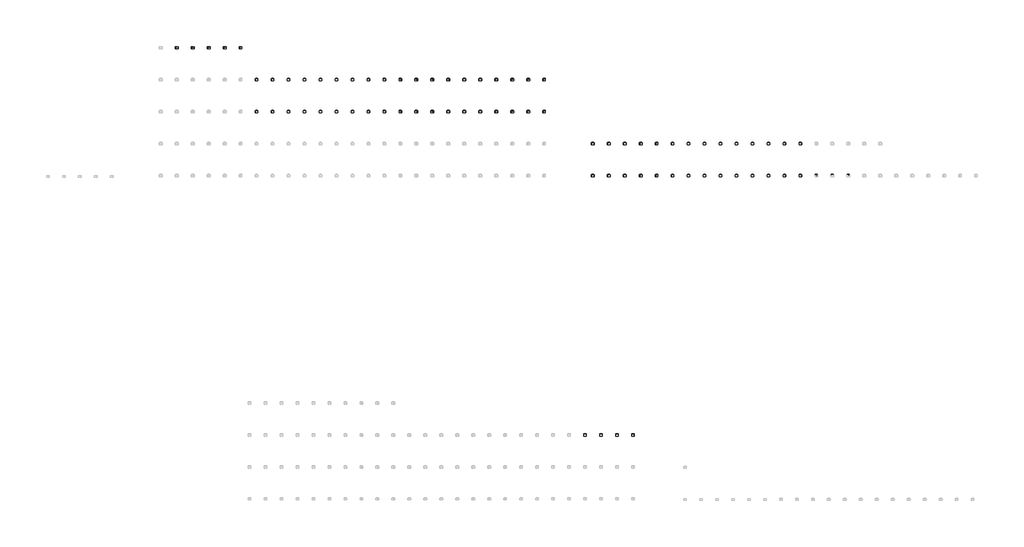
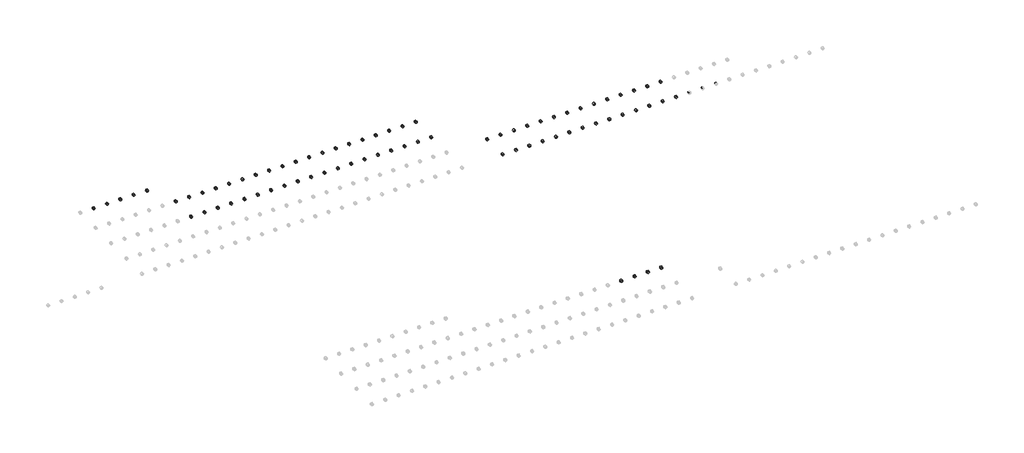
# One storey, part 11 of 18: 76 proxies, 75 cable carrier fittings.
"""IFC4 building model written with IfcOpenShell, lengths in millimetres."""

from ifc_helpers import new_model, si_unit, origin, place, context, project, spatial, transform, mapped, element, save
from components import electrical_fixtures_b7a49094, electrical_fixtures_7aa9f29c, electrical_fixtures_e2d6db54, electrical_fixtures_49105fda, electrical_fixtures_795b5cfc, electrical_fixtures_8f9d2783, cable_carrier_fitting_a64d4eba

model = new_model("IFC4")

# Units and contexts
model_context = context("Model", 3, world=origin())
ifc_project = project(units=[si_unit("LENGTHUNIT", "METRE", prefix="MILLI")], contexts=[model_context])

# Site, building, storey
site = spatial("IfcSite", under=ifc_project)
building = spatial("IfcBuilding", under=site)
storey = spatial("IfcBuildingStorey", under=building, Name="Этаж 01", Elevation=0.0)

# Proxies
placement = place(None, origin())
electrical_fixtures_shape = electrical_fixtures_b7a49094(model_context)
element("IfcBuildingElementProxy", 1, Name="IEK_Brite_Механизм розетки 230В : USB A+A_РЮ10-1-БрС", ObjectType="IEK_Brite_Механизм розетки 230В : USB A+A_РЮ10-1-БрС", at=placement, inside=storey, context=model_context, shape_type="MappedRepresentation", body=[
    mapped(electrical_fixtures_shape, transform((48390.6847594, -15405.0, 0.0), x_axis=(1.0, 0.0, 0.0), y_axis=(0.0, 1.0, 0.0), z_axis=(0.0, 0.0, 1.0))),
])
element("IfcBuildingElementProxy", 2, Name="IEK_Brite_Механизм розетки 230В : USB A+A_РЮ10-1-БрТб", ObjectType="IEK_Brite_Механизм розетки 230В : USB A+A_РЮ10-1-БрТб", at=placement, inside=storey, context=model_context, shape_type="MappedRepresentation", body=[
    mapped(electrical_fixtures_shape, transform((48790.6847594, -15405.0, 0.0), x_axis=(1.0, 0.0, 0.0), y_axis=(0.0, 1.0, 0.0), z_axis=(0.0, 0.0, 1.0))),
])
element("IfcBuildingElementProxy", 3, Name="IEK_Brite_Механизм розетки 230В : USB A+A_РЮ10-1-БрЧ", ObjectType="IEK_Brite_Механизм розетки 230В : USB A+A_РЮ10-1-БрЧ", at=placement, inside=storey, context=model_context, shape_type="MappedRepresentation", body=[
    mapped(electrical_fixtures_shape, transform((49190.6847594, -15405.0, 0.0), x_axis=(1.0, 0.0, 0.0), y_axis=(0.0, 1.0, 0.0), z_axis=(0.0, 0.0, 1.0))),
])
element("IfcBuildingElementProxy", 4, Name="IEK_Brite_Механизм розетки 230В : USB A+A_РЮ10-1-БрШ", ObjectType="IEK_Brite_Механизм розетки 230В : USB A+A_РЮ10-1-БрШ", at=placement, inside=storey, context=model_context, shape_type="MappedRepresentation", body=[
    mapped(electrical_fixtures_shape, transform((49590.6847594, -15405.0, 0.0), x_axis=(1.0, 0.0, 0.0), y_axis=(0.0, 1.0, 0.0), z_axis=(0.0, 0.0, 1.0))),
])
electrical_fixtures_2_shape = electrical_fixtures_7aa9f29c(model_context)
element("IfcBuildingElementProxy", 5, Name="IEK_Skandy_Механизм розетки 230В : 230 В PE+шт.+кр. IP44_SK-R11M", ObjectType="IEK_Skandy_Механизм розетки 230В : 230 В PE+шт.+кр. IP44_SK-R11M", at=placement, inside=storey, context=model_context, shape_type="MappedRepresentation", body=[
    mapped(electrical_fixtures_2_shape, transform((40167.0534633, -7305.0, 0.0), x_axis=(1.0, 0.0, 0.0), y_axis=(0.0, 1.0, 0.0), z_axis=(0.0, 0.0, 1.0))),
])
element("IfcBuildingElementProxy", 6, Name="IEK_Skandy_Механизм розетки 230В : 230 В PE+шт.+кр. IP44_SK-R11N", ObjectType="IEK_Skandy_Механизм розетки 230В : 230 В PE+шт.+кр. IP44_SK-R11N", at=placement, inside=storey, context=model_context, shape_type="MappedRepresentation", body=[
    mapped(electrical_fixtures_2_shape, transform((40567.0534633, -7305.0, 0.0), x_axis=(1.0, 0.0, 0.0), y_axis=(0.0, 1.0, 0.0), z_axis=(0.0, 0.0, 1.0))),
])
element("IfcBuildingElementProxy", 7, Name="IEK_Skandy_Механизм розетки 230В : 230 В PE+шт.+кр. IP44_SK-R11S", ObjectType="IEK_Skandy_Механизм розетки 230В : 230 В PE+шт.+кр. IP44_SK-R11S", at=placement, inside=storey, context=model_context, shape_type="MappedRepresentation", body=[
    mapped(electrical_fixtures_2_shape, transform((40967.0534633, -7305.0, 0.0), x_axis=(1.0, 0.0, 0.0), y_axis=(0.0, 1.0, 0.0), z_axis=(0.0, 0.0, 1.0))),
])
element("IfcBuildingElementProxy", 8, Name="IEK_Skandy_Механизм розетки 230В : 230 В PE+шт.+кр. IP44_SK-R11Sa", ObjectType="IEK_Skandy_Механизм розетки 230В : 230 В PE+шт.+кр. IP44_SK-R11Sa", at=placement, inside=storey, context=model_context, shape_type="MappedRepresentation", body=[
    mapped(electrical_fixtures_2_shape, transform((41367.0534633, -7305.0, 0.0), x_axis=(1.0, 0.0, 0.0), y_axis=(0.0, 1.0, 0.0), z_axis=(0.0, 0.0, 1.0))),
])
element("IfcBuildingElementProxy", 9, Name="IEK_Skandy_Механизм розетки 230В : 230 В PE+шт.+кр. IP44_SK-R11Sh", ObjectType="IEK_Skandy_Механизм розетки 230В : 230 В PE+шт.+кр. IP44_SK-R11Sh", at=placement, inside=storey, context=model_context, shape_type="MappedRepresentation", body=[
    mapped(electrical_fixtures_2_shape, transform((41767.0534633, -7305.0, 0.0), x_axis=(1.0, 0.0, 0.0), y_axis=(0.0, 1.0, 0.0), z_axis=(0.0, 0.0, 1.0))),
])
element("IfcBuildingElementProxy", 10, Name="IEK_Skandy_Механизм розетки 230В : 230 В PE+шт.+кр. IP44_SK-R11T", ObjectType="IEK_Skandy_Механизм розетки 230В : 230 В PE+шт.+кр. IP44_SK-R11T", at=placement, inside=storey, context=model_context, shape_type="MappedRepresentation", body=[
    mapped(electrical_fixtures_2_shape, transform((42167.0534633, -7305.0, 0.0), x_axis=(1.0, 0.0, 0.0), y_axis=(0.0, 1.0, 0.0), z_axis=(0.0, 0.0, 1.0))),
])
element("IfcBuildingElementProxy", 11, Name="IEK_Skandy_Механизм розетки 230В : 230 В PE+шт.+кр. IP44_SK-R11W", ObjectType="IEK_Skandy_Механизм розетки 230В : 230 В PE+шт.+кр. IP44_SK-R11W", at=placement, inside=storey, context=model_context, shape_type="MappedRepresentation", body=[
    mapped(electrical_fixtures_2_shape, transform((42567.0534633, -7305.0, 0.0), x_axis=(1.0, 0.0, 0.0), y_axis=(0.0, 1.0, 0.0), z_axis=(0.0, 0.0, 1.0))),
])
electrical_fixtures_3_shape = electrical_fixtures_e2d6db54(model_context)
element("IfcBuildingElementProxy", 12, Name="IEK_Skandy_Механизм розетки 230В : 230 В PE_SK-R05B", ObjectType="IEK_Skandy_Механизм розетки 230В : 230 В PE_SK-R05B", at=placement, inside=storey, context=model_context, shape_type="MappedRepresentation", body=[
    mapped(electrical_fixtures_3_shape, transform((42967.0534633, -7305.0, 0.0), x_axis=(1.0, 0.0, 0.0), y_axis=(0.0, 1.0, 0.0), z_axis=(0.0, 0.0, 1.0))),
])
element("IfcBuildingElementProxy", 13, Name="IEK_Skandy_Механизм розетки 230В : 230 В PE_SK-R05Bl", ObjectType="IEK_Skandy_Механизм розетки 230В : 230 В PE_SK-R05Bl", at=placement, inside=storey, context=model_context, shape_type="MappedRepresentation", body=[
    mapped(electrical_fixtures_3_shape, transform((43367.0534633, -7305.0, 0.0), x_axis=(1.0, 0.0, 0.0), y_axis=(0.0, 1.0, 0.0), z_axis=(0.0, 0.0, 1.0))),
])
element("IfcBuildingElementProxy", 14, Name="IEK_Skandy_Механизм розетки 230В : 230 В PE_SK-R05G", ObjectType="IEK_Skandy_Механизм розетки 230В : 230 В PE_SK-R05G", at=placement, inside=storey, context=model_context, shape_type="MappedRepresentation", body=[
    mapped(electrical_fixtures_3_shape, transform((43767.0534633, -7305.0, 0.0), x_axis=(1.0, 0.0, 0.0), y_axis=(0.0, 1.0, 0.0), z_axis=(0.0, 0.0, 1.0))),
])
element("IfcBuildingElementProxy", 15, Name="IEK_Skandy_Механизм розетки 230В : 230 В PE_SK-R05Gr", ObjectType="IEK_Skandy_Механизм розетки 230В : 230 В PE_SK-R05Gr", at=placement, inside=storey, context=model_context, shape_type="MappedRepresentation", body=[
    mapped(electrical_fixtures_3_shape, transform((44167.0534633, -7305.0, 0.0), x_axis=(1.0, 0.0, 0.0), y_axis=(0.0, 1.0, 0.0), z_axis=(0.0, 0.0, 1.0))),
])
element("IfcBuildingElementProxy", 16, Name="IEK_Skandy_Механизм розетки 230В : 230 В PE_SK-R05M", ObjectType="IEK_Skandy_Механизм розетки 230В : 230 В PE_SK-R05M", at=placement, inside=storey, context=model_context, shape_type="MappedRepresentation", body=[
    mapped(electrical_fixtures_3_shape, transform((44567.0534633, -7305.0, 0.0), x_axis=(1.0, 0.0, 0.0), y_axis=(0.0, 1.0, 0.0), z_axis=(0.0, 0.0, 1.0))),
])
element("IfcBuildingElementProxy", 17, Name="IEK_Skandy_Механизм розетки 230В : 230 В PE_SK-R05N", ObjectType="IEK_Skandy_Механизм розетки 230В : 230 В PE_SK-R05N", at=placement, inside=storey, context=model_context, shape_type="MappedRepresentation", body=[
    mapped(electrical_fixtures_3_shape, transform((44967.0534633, -7305.0, 0.0), x_axis=(1.0, 0.0, 0.0), y_axis=(0.0, 1.0, 0.0), z_axis=(0.0, 0.0, 1.0))),
])
element("IfcBuildingElementProxy", 18, Name="IEK_Skandy_Механизм розетки 230В : 230 В PE_SK-R05S", ObjectType="IEK_Skandy_Механизм розетки 230В : 230 В PE_SK-R05S", at=placement, inside=storey, context=model_context, shape_type="MappedRepresentation", body=[
    mapped(electrical_fixtures_3_shape, transform((45367.0534633, -7305.0, 0.0), x_axis=(1.0, 0.0, 0.0), y_axis=(0.0, 1.0, 0.0), z_axis=(0.0, 0.0, 1.0))),
])
element("IfcBuildingElementProxy", 19, Name="IEK_Skandy_Механизм розетки 230В : 230 В PE_SK-R05Sa", ObjectType="IEK_Skandy_Механизм розетки 230В : 230 В PE_SK-R05Sa", at=placement, inside=storey, context=model_context, shape_type="MappedRepresentation", body=[
    mapped(electrical_fixtures_3_shape, transform((45767.0534633, -7305.0, 0.0), x_axis=(1.0, 0.0, 0.0), y_axis=(0.0, 1.0, 0.0), z_axis=(0.0, 0.0, 1.0))),
])
element("IfcBuildingElementProxy", 20, Name="IEK_Skandy_Механизм розетки 230В : 230 В PE_SK-R05Sh", ObjectType="IEK_Skandy_Механизм розетки 230В : 230 В PE_SK-R05Sh", at=placement, inside=storey, context=model_context, shape_type="MappedRepresentation", body=[
    mapped(electrical_fixtures_3_shape, transform((46167.0534633, -7305.0, 0.0), x_axis=(1.0, 0.0, 0.0), y_axis=(0.0, 1.0, 0.0), z_axis=(0.0, 0.0, 1.0))),
])
element("IfcBuildingElementProxy", 21, Name="IEK_Skandy_Механизм розетки 230В : 230 В PE_SK-R05T", ObjectType="IEK_Skandy_Механизм розетки 230В : 230 В PE_SK-R05T", at=placement, inside=storey, context=model_context, shape_type="MappedRepresentation", body=[
    mapped(electrical_fixtures_3_shape, transform((46567.0534633, -7305.0, 0.0), x_axis=(1.0, 0.0, 0.0), y_axis=(0.0, 1.0, 0.0), z_axis=(0.0, 0.0, 1.0))),
])
element("IfcBuildingElementProxy", 22, Name="IEK_Skandy_Механизм розетки 230В : 230 В PE_SK-R05W", ObjectType="IEK_Skandy_Механизм розетки 230В : 230 В PE_SK-R05W", at=placement, inside=storey, context=model_context, shape_type="MappedRepresentation", body=[
    mapped(electrical_fixtures_3_shape, transform((46967.0534633, -7305.0, 0.0), x_axis=(1.0, 0.0, 0.0), y_axis=(0.0, 1.0, 0.0), z_axis=(0.0, 0.0, 1.0))),
])
element("IfcBuildingElementProxy", 23, Name="IEK_Skandy_Механизм розетки 230В : 230 В PE+шт._SK-R04B", ObjectType="IEK_Skandy_Механизм розетки 230В : 230 В PE+шт._SK-R04B", at=placement, inside=storey, context=model_context, shape_type="MappedRepresentation", body=[
    mapped(electrical_fixtures_3_shape, transform((47367.0534633, -7305.0, 0.0), x_axis=(1.0, 0.0, 0.0), y_axis=(0.0, 1.0, 0.0), z_axis=(0.0, 0.0, 1.0))),
])
element("IfcBuildingElementProxy", 24, Name="IEK_Skandy_Механизм розетки 230В : 230 В PE+шт._SK-R04Sa", ObjectType="IEK_Skandy_Механизм розетки 230В : 230 В PE+шт._SK-R04Sa", at=placement, inside=storey, context=model_context, shape_type="MappedRepresentation", body=[
    mapped(electrical_fixtures_3_shape, transform((40167.0534633, -6505.0, 0.0), x_axis=(1.0, 0.0, 0.0), y_axis=(0.0, 1.0, 0.0), z_axis=(0.0, 0.0, 1.0))),
])
element("IfcBuildingElementProxy", 25, Name="IEK_Skandy_Механизм розетки 230В : 230 В PE+шт._SK-R04Sh", ObjectType="IEK_Skandy_Механизм розетки 230В : 230 В PE+шт._SK-R04Sh", at=placement, inside=storey, context=model_context, shape_type="MappedRepresentation", body=[
    mapped(electrical_fixtures_3_shape, transform((40567.0534633, -6505.0, 0.0), x_axis=(1.0, 0.0, 0.0), y_axis=(0.0, 1.0, 0.0), z_axis=(0.0, 0.0, 1.0))),
])
element("IfcBuildingElementProxy", 26, Name="IEK_Skandy_Механизм розетки 230В : 230 В PE+шт._SK-R04T", ObjectType="IEK_Skandy_Механизм розетки 230В : 230 В PE+шт._SK-R04T", at=placement, inside=storey, context=model_context, shape_type="MappedRepresentation", body=[
    mapped(electrical_fixtures_3_shape, transform((40967.0534633, -6505.0, 0.0), x_axis=(1.0, 0.0, 0.0), y_axis=(0.0, 1.0, 0.0), z_axis=(0.0, 0.0, 1.0))),
])
element("IfcBuildingElementProxy", 27, Name="IEK_Skandy_Механизм розетки 230В : 230 В PE+шт._SK-R04W", ObjectType="IEK_Skandy_Механизм розетки 230В : 230 В PE+шт._SK-R04W", at=placement, inside=storey, context=model_context, shape_type="MappedRepresentation", body=[
    mapped(electrical_fixtures_3_shape, transform((41367.0534633, -6505.0, 0.0), x_axis=(1.0, 0.0, 0.0), y_axis=(0.0, 1.0, 0.0), z_axis=(0.0, 0.0, 1.0))),
])
element("IfcBuildingElementProxy", 28, Name="IEK_Skandy_Механизм розетки 230В : 230 В PE+шт._SK-R06B", ObjectType="IEK_Skandy_Механизм розетки 230В : 230 В PE+шт._SK-R06B", at=placement, inside=storey, context=model_context, shape_type="MappedRepresentation", body=[
    mapped(electrical_fixtures_3_shape, transform((41767.0534633, -6505.0, 0.0), x_axis=(1.0, 0.0, 0.0), y_axis=(0.0, 1.0, 0.0), z_axis=(0.0, 0.0, 1.0))),
])
element("IfcBuildingElementProxy", 29, Name="IEK_Skandy_Механизм розетки 230В : 230 В PE+шт._SK-R06Bl", ObjectType="IEK_Skandy_Механизм розетки 230В : 230 В PE+шт._SK-R06Bl", at=placement, inside=storey, context=model_context, shape_type="MappedRepresentation", body=[
    mapped(electrical_fixtures_3_shape, transform((42167.0534633, -6505.0, 0.0), x_axis=(1.0, 0.0, 0.0), y_axis=(0.0, 1.0, 0.0), z_axis=(0.0, 0.0, 1.0))),
])
element("IfcBuildingElementProxy", 30, Name="IEK_Skandy_Механизм розетки 230В : 230 В PE+шт._SK-R06G", ObjectType="IEK_Skandy_Механизм розетки 230В : 230 В PE+шт._SK-R06G", at=placement, inside=storey, context=model_context, shape_type="MappedRepresentation", body=[
    mapped(electrical_fixtures_3_shape, transform((42567.0534633, -6505.0, 0.0), x_axis=(1.0, 0.0, 0.0), y_axis=(0.0, 1.0, 0.0), z_axis=(0.0, 0.0, 1.0))),
])
element("IfcBuildingElementProxy", 31, Name="IEK_Skandy_Механизм розетки 230В : 230 В PE+шт._SK-R06Gr", ObjectType="IEK_Skandy_Механизм розетки 230В : 230 В PE+шт._SK-R06Gr", at=placement, inside=storey, context=model_context, shape_type="MappedRepresentation", body=[
    mapped(electrical_fixtures_3_shape, transform((42967.0534633, -6505.0, 0.0), x_axis=(1.0, 0.0, 0.0), y_axis=(0.0, 1.0, 0.0), z_axis=(0.0, 0.0, 1.0))),
])
element("IfcBuildingElementProxy", 32, Name="IEK_Skandy_Механизм розетки 230В : 230 В PE+шт._SK-R06M", ObjectType="IEK_Skandy_Механизм розетки 230В : 230 В PE+шт._SK-R06M", at=placement, inside=storey, context=model_context, shape_type="MappedRepresentation", body=[
    mapped(electrical_fixtures_3_shape, transform((43367.0534633, -6505.0, 0.0), x_axis=(1.0, 0.0, 0.0), y_axis=(0.0, 1.0, 0.0), z_axis=(0.0, 0.0, 1.0))),
])
element("IfcBuildingElementProxy", 33, Name="IEK_Skandy_Механизм розетки 230В : 230 В PE+шт._SK-R06N", ObjectType="IEK_Skandy_Механизм розетки 230В : 230 В PE+шт._SK-R06N", at=placement, inside=storey, context=model_context, shape_type="MappedRepresentation", body=[
    mapped(electrical_fixtures_3_shape, transform((43767.0534633, -6505.0, 0.0), x_axis=(1.0, 0.0, 0.0), y_axis=(0.0, 1.0, 0.0), z_axis=(0.0, 0.0, 1.0))),
])
element("IfcBuildingElementProxy", 34, Name="IEK_Skandy_Механизм розетки 230В : 230 В PE+шт._SK-R06S", ObjectType="IEK_Skandy_Механизм розетки 230В : 230 В PE+шт._SK-R06S", at=placement, inside=storey, context=model_context, shape_type="MappedRepresentation", body=[
    mapped(electrical_fixtures_3_shape, transform((44167.0534633, -6505.0, 0.0), x_axis=(1.0, 0.0, 0.0), y_axis=(0.0, 1.0, 0.0), z_axis=(0.0, 0.0, 1.0))),
])
element("IfcBuildingElementProxy", 35, Name="IEK_Skandy_Механизм розетки 230В : 230 В PE+шт._SK-R06Sa", ObjectType="IEK_Skandy_Механизм розетки 230В : 230 В PE+шт._SK-R06Sa", at=placement, inside=storey, context=model_context, shape_type="MappedRepresentation", body=[
    mapped(electrical_fixtures_3_shape, transform((44567.0534633, -6505.0, 0.0), x_axis=(1.0, 0.0, 0.0), y_axis=(0.0, 1.0, 0.0), z_axis=(0.0, 0.0, 1.0))),
])
element("IfcBuildingElementProxy", 36, Name="IEK_Skandy_Механизм розетки 230В : 230 В PE+шт._SK-R06Sh", ObjectType="IEK_Skandy_Механизм розетки 230В : 230 В PE+шт._SK-R06Sh", at=placement, inside=storey, context=model_context, shape_type="MappedRepresentation", body=[
    mapped(electrical_fixtures_3_shape, transform((44967.0534633, -6505.0, 0.0), x_axis=(1.0, 0.0, 0.0), y_axis=(0.0, 1.0, 0.0), z_axis=(0.0, 0.0, 1.0))),
])
element("IfcBuildingElementProxy", 37, Name="IEK_Skandy_Механизм розетки 230В : 230 В PE+шт._SK-R06T", ObjectType="IEK_Skandy_Механизм розетки 230В : 230 В PE+шт._SK-R06T", at=placement, inside=storey, context=model_context, shape_type="MappedRepresentation", body=[
    mapped(electrical_fixtures_3_shape, transform((45367.0534633, -6505.0, 0.0), x_axis=(1.0, 0.0, 0.0), y_axis=(0.0, 1.0, 0.0), z_axis=(0.0, 0.0, 1.0))),
])
element("IfcBuildingElementProxy", 38, Name="IEK_Skandy_Механизм розетки 230В : 230 В PE+шт._SK-R06W", ObjectType="IEK_Skandy_Механизм розетки 230В : 230 В PE+шт._SK-R06W", at=placement, inside=storey, context=model_context, shape_type="MappedRepresentation", body=[
    mapped(electrical_fixtures_3_shape, transform((45767.0534633, -6505.0, 0.0), x_axis=(1.0, 0.0, 0.0), y_axis=(0.0, 1.0, 0.0), z_axis=(0.0, 0.0, 1.0))),
])
electrical_fixtures_4_shape = electrical_fixtures_49105fda(model_context)
element("IfcBuildingElementProxy", 39, Name="IEK_Skandy_Механизм розетки 230В : 230 В PE+шт. USB C_SK-R17B", ObjectType="IEK_Skandy_Механизм розетки 230В : 230 В PE+шт. USB C_SK-R17B", at=placement, inside=storey, context=model_context, shape_type="MappedRepresentation", body=[
    mapped(electrical_fixtures_4_shape, transform((46167.0534633, -6505.0, 0.0), x_axis=(1.0, 0.0, 0.0), y_axis=(0.0, 1.0, 0.0), z_axis=(0.0, 0.0, 1.0))),
])
element("IfcBuildingElementProxy", 40, Name="IEK_Skandy_Механизм розетки 230В : 230 В PE+шт. USB C_SK-R17Bl", ObjectType="IEK_Skandy_Механизм розетки 230В : 230 В PE+шт. USB C_SK-R17Bl", at=placement, inside=storey, context=model_context, shape_type="MappedRepresentation", body=[
    mapped(electrical_fixtures_4_shape, transform((46567.0534633, -6505.0, 0.0), x_axis=(1.0, 0.0, 0.0), y_axis=(0.0, 1.0, 0.0), z_axis=(0.0, 0.0, 1.0))),
])
element("IfcBuildingElementProxy", 41, Name="IEK_Skandy_Механизм розетки 230В : 230 В PE+шт. USB C_SK-R17G", ObjectType="IEK_Skandy_Механизм розетки 230В : 230 В PE+шт. USB C_SK-R17G", at=placement, inside=storey, context=model_context, shape_type="MappedRepresentation", body=[
    mapped(electrical_fixtures_4_shape, transform((46967.0534633, -6505.0, 0.0), x_axis=(1.0, 0.0, 0.0), y_axis=(0.0, 1.0, 0.0), z_axis=(0.0, 0.0, 1.0))),
])
element("IfcBuildingElementProxy", 42, Name="IEK_Skandy_Механизм розетки 230В : 230 В PE+шт. USB C_SK-R17Gr", ObjectType="IEK_Skandy_Механизм розетки 230В : 230 В PE+шт. USB C_SK-R17Gr", at=placement, inside=storey, context=model_context, shape_type="MappedRepresentation", body=[
    mapped(electrical_fixtures_4_shape, transform((47367.0534633, -6505.0, 0.0), x_axis=(1.0, 0.0, 0.0), y_axis=(0.0, 1.0, 0.0), z_axis=(0.0, 0.0, 1.0))),
])
element("IfcBuildingElementProxy", 43, Name="IEK_Skandy_Механизм розетки 230В : 230 В PE+шт. USB C_SK-R17Sh", ObjectType="IEK_Skandy_Механизм розетки 230В : 230 В PE+шт. USB C_SK-R17Sh", at=placement, inside=storey, context=model_context, shape_type="MappedRepresentation", body=[
    mapped(electrical_fixtures_4_shape, transform((38967.0534633, -5705.0, 0.0), x_axis=(1.0, 0.0, 0.0), y_axis=(0.0, 1.0, 0.0), z_axis=(0.0, 0.0, 1.0))),
])
element("IfcBuildingElementProxy", 44, Name="IEK_Skandy_Механизм розетки 230В : 230 В PE+шт. USB C_SK-R17T", ObjectType="IEK_Skandy_Механизм розетки 230В : 230 В PE+шт. USB C_SK-R17T", at=placement, inside=storey, context=model_context, shape_type="MappedRepresentation", body=[
    mapped(electrical_fixtures_4_shape, transform((39367.0534633, -5705.0, 0.0), x_axis=(1.0, 0.0, 0.0), y_axis=(0.0, 1.0, 0.0), z_axis=(0.0, 0.0, 1.0))),
])
element("IfcBuildingElementProxy", 45, Name="IEK_Skandy_Механизм розетки 230В : 230 В PE+шт. USB C_SK-R17W", ObjectType="IEK_Skandy_Механизм розетки 230В : 230 В PE+шт. USB C_SK-R17W", at=placement, inside=storey, context=model_context, shape_type="MappedRepresentation", body=[
    mapped(electrical_fixtures_4_shape, transform((39767.0534633, -5705.0, 0.0), x_axis=(1.0, 0.0, 0.0), y_axis=(0.0, 1.0, 0.0), z_axis=(0.0, 0.0, 1.0))),
])
electrical_fixtures_5_shape = electrical_fixtures_795b5cfc(model_context)
element("IfcBuildingElementProxy", 46, Name="IEK_Skandy_Механизм розетки информационной : 2хRJ45 к5E_SK-K03B", ObjectType="IEK_Skandy_Механизм розетки информационной : 2хRJ45 к5E_SK-K03B", at=placement, inside=storey, context=model_context, shape_type="MappedRepresentation", body=[
    mapped(electrical_fixtures_5_shape, transform((48584.0830756, -8905.0, 0.0), x_axis=(1.0, 0.0, 0.0), y_axis=(0.0, 1.0, 0.0), z_axis=(0.0, 0.0, 1.0))),
])
element("IfcBuildingElementProxy", 47, Name="IEK_Skandy_Механизм розетки информационной : 2хRJ45 к5E_SK-K03Bl", ObjectType="IEK_Skandy_Механизм розетки информационной : 2хRJ45 к5E_SK-K03Bl", at=placement, inside=storey, context=model_context, shape_type="MappedRepresentation", body=[
    mapped(electrical_fixtures_5_shape, transform((48984.0830756, -8905.0, 0.0), x_axis=(1.0, 0.0, 0.0), y_axis=(0.0, 1.0, 0.0), z_axis=(0.0, 0.0, 1.0))),
])
element("IfcBuildingElementProxy", 48, Name="IEK_Skandy_Механизм розетки информационной : 2хRJ45 к5E_SK-K03G", ObjectType="IEK_Skandy_Механизм розетки информационной : 2хRJ45 к5E_SK-K03G", at=placement, inside=storey, context=model_context, shape_type="MappedRepresentation", body=[
    mapped(electrical_fixtures_5_shape, transform((49384.0830756, -8905.0, 0.0), x_axis=(1.0, 0.0, 0.0), y_axis=(0.0, 1.0, 0.0), z_axis=(0.0, 0.0, 1.0))),
])
element("IfcBuildingElementProxy", 49, Name="IEK_Skandy_Механизм розетки информационной : 2хRJ45 к5E_SK-K03Gr", ObjectType="IEK_Skandy_Механизм розетки информационной : 2хRJ45 к5E_SK-K03Gr", at=placement, inside=storey, context=model_context, shape_type="MappedRepresentation", body=[
    mapped(electrical_fixtures_5_shape, transform((49784.0830756, -8905.0, 0.0), x_axis=(1.0, 0.0, 0.0), y_axis=(0.0, 1.0, 0.0), z_axis=(0.0, 0.0, 1.0))),
])
element("IfcBuildingElementProxy", 50, Name="IEK_Skandy_Механизм розетки информационной : 2хRJ45 к5E_SK-K03M", ObjectType="IEK_Skandy_Механизм розетки информационной : 2хRJ45 к5E_SK-K03M", at=placement, inside=storey, context=model_context, shape_type="MappedRepresentation", body=[
    mapped(electrical_fixtures_5_shape, transform((50184.0830756, -8905.0, 0.0), x_axis=(1.0, 0.0, 0.0), y_axis=(0.0, 1.0, 0.0), z_axis=(0.0, 0.0, 1.0))),
])
element("IfcBuildingElementProxy", 51, Name="IEK_Skandy_Механизм розетки информационной : 2хRJ45 к5E_SK-K03N", ObjectType="IEK_Skandy_Механизм розетки информационной : 2хRJ45 к5E_SK-K03N", at=placement, inside=storey, context=model_context, shape_type="MappedRepresentation", body=[
    mapped(electrical_fixtures_5_shape, transform((50584.0830756, -8905.0, 0.0), x_axis=(1.0, 0.0, 0.0), y_axis=(0.0, 1.0, 0.0), z_axis=(0.0, 0.0, 1.0))),
])
element("IfcBuildingElementProxy", 52, Name="IEK_Skandy_Механизм розетки информационной : 2хRJ45 к5E_SK-K03S", ObjectType="IEK_Skandy_Механизм розетки информационной : 2хRJ45 к5E_SK-K03S", at=placement, inside=storey, context=model_context, shape_type="MappedRepresentation", body=[
    mapped(electrical_fixtures_5_shape, transform((50984.0830756, -8905.0, 0.0), x_axis=(1.0, 0.0, 0.0), y_axis=(0.0, 1.0, 0.0), z_axis=(0.0, 0.0, 1.0))),
])
element("IfcBuildingElementProxy", 53, Name="IEK_Skandy_Механизм розетки информационной : 2хRJ45 к5E_SK-K03Sa", ObjectType="IEK_Skandy_Механизм розетки информационной : 2хRJ45 к5E_SK-K03Sa", at=placement, inside=storey, context=model_context, shape_type="MappedRepresentation", body=[
    mapped(electrical_fixtures_5_shape, transform((51384.0830756, -8905.0, 0.0), x_axis=(1.0, 0.0, 0.0), y_axis=(0.0, 1.0, 0.0), z_axis=(0.0, 0.0, 1.0))),
])
element("IfcBuildingElementProxy", 54, Name="IEK_Skandy_Механизм розетки информационной : 2хRJ45 к5E_SK-K03Sh", ObjectType="IEK_Skandy_Механизм розетки информационной : 2хRJ45 к5E_SK-K03Sh", at=placement, inside=storey, context=model_context, shape_type="MappedRepresentation", body=[
    mapped(electrical_fixtures_5_shape, transform((51784.0830756, -8905.0, 0.0), x_axis=(1.0, 0.0, 0.0), y_axis=(0.0, 1.0, 0.0), z_axis=(0.0, 0.0, 1.0))),
])
element("IfcBuildingElementProxy", 55, Name="IEK_Skandy_Механизм розетки информационной : 2хRJ45 к5E_SK-K03T", ObjectType="IEK_Skandy_Механизм розетки информационной : 2хRJ45 к5E_SK-K03T", at=placement, inside=storey, context=model_context, shape_type="MappedRepresentation", body=[
    mapped(electrical_fixtures_5_shape, transform((52184.0830756, -8905.0, 0.0), x_axis=(1.0, 0.0, 0.0), y_axis=(0.0, 1.0, 0.0), z_axis=(0.0, 0.0, 1.0))),
])
element("IfcBuildingElementProxy", 56, Name="IEK_Skandy_Механизм розетки информационной : 2хRJ45 к5E_SK-K03W", ObjectType="IEK_Skandy_Механизм розетки информационной : 2хRJ45 к5E_SK-K03W", at=placement, inside=storey, context=model_context, shape_type="MappedRepresentation", body=[
    mapped(electrical_fixtures_5_shape, transform((52584.0830756, -8905.0, 0.0), x_axis=(1.0, 0.0, 0.0), y_axis=(0.0, 1.0, 0.0), z_axis=(0.0, 0.0, 1.0))),
])
element("IfcBuildingElementProxy", 57, Name="IEK_Skandy_Механизм розетки информационной : 2хRJ45 к6_SK-K04B", ObjectType="IEK_Skandy_Механизм розетки информационной : 2хRJ45 к6_SK-K04B", at=placement, inside=storey, context=model_context, shape_type="MappedRepresentation", body=[
    mapped(electrical_fixtures_5_shape, transform((52984.0830756, -8905.0, 0.0), x_axis=(1.0, 0.0, 0.0), y_axis=(0.0, 1.0, 0.0), z_axis=(0.0, 0.0, 1.0))),
])
element("IfcBuildingElementProxy", 58, Name="IEK_Skandy_Механизм розетки информационной : 2хRJ45 к6_SK-K04Bl", ObjectType="IEK_Skandy_Механизм розетки информационной : 2хRJ45 к6_SK-K04Bl", at=placement, inside=storey, context=model_context, shape_type="MappedRepresentation", body=[
    mapped(electrical_fixtures_5_shape, transform((53384.0830756, -8905.0, 0.0), x_axis=(1.0, 0.0, 0.0), y_axis=(0.0, 1.0, 0.0), z_axis=(0.0, 0.0, 1.0))),
])
element("IfcBuildingElementProxy", 59, Name="IEK_Skandy_Механизм розетки информационной : 2хRJ45 к6_SK-K04G", ObjectType="IEK_Skandy_Механизм розетки информационной : 2хRJ45 к6_SK-K04G", at=placement, inside=storey, context=model_context, shape_type="MappedRepresentation", body=[
    mapped(electrical_fixtures_5_shape, transform((53784.0830756, -8905.0, 0.0), x_axis=(1.0, 0.0, 0.0), y_axis=(0.0, 1.0, 0.0), z_axis=(0.0, 0.0, 1.0))),
])
element("IfcBuildingElementProxy", 60, Name="IEK_Skandy_Механизм розетки информационной : 2хRJ45 к6_SK-K04Gr", ObjectType="IEK_Skandy_Механизм розетки информационной : 2хRJ45 к6_SK-K04Gr", at=placement, inside=storey, context=model_context, shape_type="MappedRepresentation", body=[
    mapped(electrical_fixtures_5_shape, transform((54184.0830756, -8905.0, 0.0), x_axis=(1.0, 0.0, 0.0), y_axis=(0.0, 1.0, 0.0), z_axis=(0.0, 0.0, 1.0))),
])
element("IfcBuildingElementProxy", 61, Name="IEK_Skandy_Механизм розетки информационной : 2хRJ45 к6_SK-K04M", ObjectType="IEK_Skandy_Механизм розетки информационной : 2хRJ45 к6_SK-K04M", at=placement, inside=storey, context=model_context, shape_type="MappedRepresentation", body=[
    mapped(electrical_fixtures_5_shape, transform((54584.0830756, -8905.0, 0.0), x_axis=(1.0, 0.0, 0.0), y_axis=(0.0, 1.0, 0.0), z_axis=(0.0, 0.0, 1.0))),
])
element("IfcBuildingElementProxy", 62, Name="IEK_Skandy_Механизм розетки информационной : 2хRJ45 к6_SK-K04N", ObjectType="IEK_Skandy_Механизм розетки информационной : 2хRJ45 к6_SK-K04N", at=placement, inside=storey, context=model_context, shape_type="MappedRepresentation", body=[
    mapped(electrical_fixtures_5_shape, transform((54984.0830756, -8905.0, 0.0), x_axis=(1.0, 0.0, 0.0), y_axis=(0.0, 1.0, 0.0), z_axis=(0.0, 0.0, 1.0))),
])
electrical_fixtures_6_shape = electrical_fixtures_8f9d2783(model_context)
element("IfcBuildingElementProxy", 63, Name="IEK_Skandy_Механизм розетки информационной : RJ45 к5E_SK-K01Gr", ObjectType="IEK_Skandy_Механизм розетки информационной : RJ45 к5E_SK-K01Gr", at=placement, inside=storey, context=model_context, shape_type="MappedRepresentation", body=[
    mapped(electrical_fixtures_6_shape, transform((48584.0830756, -8105.0, 0.0), x_axis=(1.0, 0.0, 0.0), y_axis=(0.0, 1.0, 0.0), z_axis=(0.0, 0.0, 1.0))),
])
element("IfcBuildingElementProxy", 64, Name="IEK_Skandy_Механизм розетки информационной : RJ45 к5E_SK-K01M", ObjectType="IEK_Skandy_Механизм розетки информационной : RJ45 к5E_SK-K01M", at=placement, inside=storey, context=model_context, shape_type="MappedRepresentation", body=[
    mapped(electrical_fixtures_6_shape, transform((48984.0830756, -8105.0, 0.0), x_axis=(1.0, 0.0, 0.0), y_axis=(0.0, 1.0, 0.0), z_axis=(0.0, 0.0, 1.0))),
])
element("IfcBuildingElementProxy", 65, Name="IEK_Skandy_Механизм розетки информационной : RJ45 к5E_SK-K01N", ObjectType="IEK_Skandy_Механизм розетки информационной : RJ45 к5E_SK-K01N", at=placement, inside=storey, context=model_context, shape_type="MappedRepresentation", body=[
    mapped(electrical_fixtures_6_shape, transform((49384.0830756, -8105.0, 0.0), x_axis=(1.0, 0.0, 0.0), y_axis=(0.0, 1.0, 0.0), z_axis=(0.0, 0.0, 1.0))),
])
element("IfcBuildingElementProxy", 66, Name="IEK_Skandy_Механизм розетки информационной : RJ45 к5E_SK-K01S", ObjectType="IEK_Skandy_Механизм розетки информационной : RJ45 к5E_SK-K01S", at=placement, inside=storey, context=model_context, shape_type="MappedRepresentation", body=[
    mapped(electrical_fixtures_6_shape, transform((49784.0830756, -8105.0, 0.0), x_axis=(1.0, 0.0, 0.0), y_axis=(0.0, 1.0, 0.0), z_axis=(0.0, 0.0, 1.0))),
])
element("IfcBuildingElementProxy", 67, Name="IEK_Skandy_Механизм розетки информационной : RJ45 к5E_SK-K01Sa", ObjectType="IEK_Skandy_Механизм розетки информационной : RJ45 к5E_SK-K01Sa", at=placement, inside=storey, context=model_context, shape_type="MappedRepresentation", body=[
    mapped(electrical_fixtures_6_shape, transform((50184.0830756, -8105.0, 0.0), x_axis=(1.0, 0.0, 0.0), y_axis=(0.0, 1.0, 0.0), z_axis=(0.0, 0.0, 1.0))),
])
element("IfcBuildingElementProxy", 68, Name="IEK_Skandy_Механизм розетки информационной : RJ45 к5E_SK-K01Sh", ObjectType="IEK_Skandy_Механизм розетки информационной : RJ45 к5E_SK-K01Sh", at=placement, inside=storey, context=model_context, shape_type="MappedRepresentation", body=[
    mapped(electrical_fixtures_6_shape, transform((50584.0830756, -8105.0, 0.0), x_axis=(1.0, 0.0, 0.0), y_axis=(0.0, 1.0, 0.0), z_axis=(0.0, 0.0, 1.0))),
])
element("IfcBuildingElementProxy", 69, Name="IEK_Skandy_Механизм розетки информационной : RJ45 к5E_SK-K01T", ObjectType="IEK_Skandy_Механизм розетки информационной : RJ45 к5E_SK-K01T", at=placement, inside=storey, context=model_context, shape_type="MappedRepresentation", body=[
    mapped(electrical_fixtures_6_shape, transform((50984.0830756, -8105.0, 0.0), x_axis=(1.0, 0.0, 0.0), y_axis=(0.0, 1.0, 0.0), z_axis=(0.0, 0.0, 1.0))),
])
element("IfcBuildingElementProxy", 70, Name="IEK_Skandy_Механизм розетки информационной : RJ45 к5E_SK-K01W", ObjectType="IEK_Skandy_Механизм розетки информационной : RJ45 к5E_SK-K01W", at=placement, inside=storey, context=model_context, shape_type="MappedRepresentation", body=[
    mapped(electrical_fixtures_6_shape, transform((51384.0830756, -8105.0, 0.0), x_axis=(1.0, 0.0, 0.0), y_axis=(0.0, 1.0, 0.0), z_axis=(0.0, 0.0, 1.0))),
])
element("IfcBuildingElementProxy", 71, Name="IEK_Skandy_Механизм розетки информационной : RJ45 к6_SK-K02B", ObjectType="IEK_Skandy_Механизм розетки информационной : RJ45 к6_SK-K02B", at=placement, inside=storey, context=model_context, shape_type="MappedRepresentation", body=[
    mapped(electrical_fixtures_6_shape, transform((51784.0830756, -8105.0, 0.0), x_axis=(1.0, 0.0, 0.0), y_axis=(0.0, 1.0, 0.0), z_axis=(0.0, 0.0, 1.0))),
])
element("IfcBuildingElementProxy", 72, Name="IEK_Skandy_Механизм розетки информационной : RJ45 к6_SK-K02Bl", ObjectType="IEK_Skandy_Механизм розетки информационной : RJ45 к6_SK-K02Bl", at=placement, inside=storey, context=model_context, shape_type="MappedRepresentation", body=[
    mapped(electrical_fixtures_6_shape, transform((52184.0830756, -8105.0, 0.0), x_axis=(1.0, 0.0, 0.0), y_axis=(0.0, 1.0, 0.0), z_axis=(0.0, 0.0, 1.0))),
])
element("IfcBuildingElementProxy", 73, Name="IEK_Skandy_Механизм розетки информационной : RJ45 к6_SK-K02G", ObjectType="IEK_Skandy_Механизм розетки информационной : RJ45 к6_SK-K02G", at=placement, inside=storey, context=model_context, shape_type="MappedRepresentation", body=[
    mapped(electrical_fixtures_6_shape, transform((52584.0830756, -8105.0, 0.0), x_axis=(1.0, 0.0, 0.0), y_axis=(0.0, 1.0, 0.0), z_axis=(0.0, 0.0, 1.0))),
])
element("IfcBuildingElementProxy", 74, Name="IEK_Skandy_Механизм розетки информационной : RJ45 к6_SK-K02Gr", ObjectType="IEK_Skandy_Механизм розетки информационной : RJ45 к6_SK-K02Gr", at=placement, inside=storey, context=model_context, shape_type="MappedRepresentation", body=[
    mapped(electrical_fixtures_6_shape, transform((52984.0830756, -8105.0, 0.0), x_axis=(1.0, 0.0, 0.0), y_axis=(0.0, 1.0, 0.0), z_axis=(0.0, 0.0, 1.0))),
])
element("IfcBuildingElementProxy", 75, Name="IEK_Skandy_Механизм розетки информационной : RJ45 к6_SK-K02M", ObjectType="IEK_Skandy_Механизм розетки информационной : RJ45 к6_SK-K02M", at=placement, inside=storey, context=model_context, shape_type="MappedRepresentation", body=[
    mapped(electrical_fixtures_6_shape, transform((53384.0830756, -8105.0, 0.0), x_axis=(1.0, 0.0, 0.0), y_axis=(0.0, 1.0, 0.0), z_axis=(0.0, 0.0, 1.0))),
])
element("IfcBuildingElementProxy", 76, Name="IEK_Skandy_Механизм розетки информационной : RJ45 к6_SK-K02N", ObjectType="IEK_Skandy_Механизм розетки информационной : RJ45 к6_SK-K02N", at=placement, inside=storey, context=model_context, shape_type="MappedRepresentation", body=[
    mapped(electrical_fixtures_6_shape, transform((53784.0830756, -8105.0, 0.0), x_axis=(1.0, 0.0, 0.0), y_axis=(0.0, 1.0, 0.0), z_axis=(0.0, 0.0, 1.0))),
])

# Cable carrier fittings
cable_carrier_fitting_shape = cable_carrier_fitting_a64d4eba(model_context)
element("IfcCableCarrierFitting", 77, ObjectType="IEK_Коробка монтажная : стены_полые", at=placement, inside=storey, context=model_context, shape_type="MappedRepresentation", body=[
    mapped(cable_carrier_fitting_shape, transform((48390.6847594, -15405.0, 0.0), x_axis=(1.0, 0.0, 0.0), y_axis=(0.0, 1.0, 0.0), z_axis=(0.0, 0.0, 1.0))),
])
element("IfcCableCarrierFitting", 78, ObjectType="IEK_Коробка монтажная : стены_полые", at=placement, inside=storey, context=model_context, shape_type="MappedRepresentation", body=[
    mapped(cable_carrier_fitting_shape, transform((48790.6847594, -15405.0, 0.0), x_axis=(1.0, 0.0, 0.0), y_axis=(0.0, 1.0, 0.0), z_axis=(0.0, 0.0, 1.0))),
])
element("IfcCableCarrierFitting", 79, ObjectType="IEK_Коробка монтажная : стены_полые", at=placement, inside=storey, context=model_context, shape_type="MappedRepresentation", body=[
    mapped(cable_carrier_fitting_shape, transform((49190.6847594, -15405.0, 0.0), x_axis=(1.0, 0.0, 0.0), y_axis=(0.0, 1.0, 0.0), z_axis=(0.0, 0.0, 1.0))),
])
element("IfcCableCarrierFitting", 80, ObjectType="IEK_Коробка монтажная : стены_полые", at=placement, inside=storey, context=model_context, shape_type="MappedRepresentation", body=[
    mapped(cable_carrier_fitting_shape, transform((49590.6847594, -15405.0, 0.0), x_axis=(1.0, 0.0, 0.0), y_axis=(0.0, 1.0, 0.0), z_axis=(0.0, 0.0, 1.0))),
])
element("IfcCableCarrierFitting", 81, ObjectType="IEK_Коробка монтажная : стены_полые", at=placement, inside=storey, context=model_context, shape_type="MappedRepresentation", body=[
    mapped(cable_carrier_fitting_shape, transform((40167.0534633, -7305.0, 0.0), x_axis=(1.0, 0.0, 0.0), y_axis=(0.0, 1.0, 0.0), z_axis=(0.0, 0.0, 1.0))),
])
element("IfcCableCarrierFitting", 82, ObjectType="IEK_Коробка монтажная : стены_полые", at=placement, inside=storey, context=model_context, shape_type="MappedRepresentation", body=[
    mapped(cable_carrier_fitting_shape, transform((40567.0534633, -7305.0, 0.0), x_axis=(1.0, 0.0, 0.0), y_axis=(0.0, 1.0, 0.0), z_axis=(0.0, 0.0, 1.0))),
])
element("IfcCableCarrierFitting", 83, ObjectType="IEK_Коробка монтажная : стены_полые", at=placement, inside=storey, context=model_context, shape_type="MappedRepresentation", body=[
    mapped(cable_carrier_fitting_shape, transform((40967.0534633, -7305.0, 0.0), x_axis=(1.0, 0.0, 0.0), y_axis=(0.0, 1.0, 0.0), z_axis=(0.0, 0.0, 1.0))),
])
element("IfcCableCarrierFitting", 84, ObjectType="IEK_Коробка монтажная : стены_полые", at=placement, inside=storey, context=model_context, shape_type="MappedRepresentation", body=[
    mapped(cable_carrier_fitting_shape, transform((41367.0534633, -7305.0, 0.0), x_axis=(1.0, 0.0, 0.0), y_axis=(0.0, 1.0, 0.0), z_axis=(0.0, 0.0, 1.0))),
])
element("IfcCableCarrierFitting", 85, ObjectType="IEK_Коробка монтажная : стены_полые", at=placement, inside=storey, context=model_context, shape_type="MappedRepresentation", body=[
    mapped(cable_carrier_fitting_shape, transform((41767.0534633, -7305.0, 0.0), x_axis=(1.0, 0.0, 0.0), y_axis=(0.0, 1.0, 0.0), z_axis=(0.0, 0.0, 1.0))),
])
element("IfcCableCarrierFitting", 86, ObjectType="IEK_Коробка монтажная : стены_полые", at=placement, inside=storey, context=model_context, shape_type="MappedRepresentation", body=[
    mapped(cable_carrier_fitting_shape, transform((42167.0534633, -7305.0, 0.0), x_axis=(1.0, 0.0, 0.0), y_axis=(0.0, 1.0, 0.0), z_axis=(0.0, 0.0, 1.0))),
])
element("IfcCableCarrierFitting", 87, ObjectType="IEK_Коробка монтажная : стены_полые", at=placement, inside=storey, context=model_context, shape_type="MappedRepresentation", body=[
    mapped(cable_carrier_fitting_shape, transform((42567.0534633, -7305.0, 0.0), x_axis=(1.0, 0.0, 0.0), y_axis=(0.0, 1.0, 0.0), z_axis=(0.0, 0.0, 1.0))),
])
element("IfcCableCarrierFitting", 88, ObjectType="IEK_Коробка монтажная : стены_полые", at=placement, inside=storey, context=model_context, shape_type="MappedRepresentation", body=[
    mapped(cable_carrier_fitting_shape, transform((42967.0534633, -7305.0, 0.0), x_axis=(1.0, 0.0, 0.0), y_axis=(0.0, 1.0, 0.0), z_axis=(0.0, 0.0, 1.0))),
])
element("IfcCableCarrierFitting", 89, ObjectType="IEK_Коробка монтажная : стены_полые", at=placement, inside=storey, context=model_context, shape_type="MappedRepresentation", body=[
    mapped(cable_carrier_fitting_shape, transform((43367.0534633, -7305.0, 0.0), x_axis=(1.0, 0.0, 0.0), y_axis=(0.0, 1.0, 0.0), z_axis=(0.0, 0.0, 1.0))),
])
element("IfcCableCarrierFitting", 90, ObjectType="IEK_Коробка монтажная : стены_полые", at=placement, inside=storey, context=model_context, shape_type="MappedRepresentation", body=[
    mapped(cable_carrier_fitting_shape, transform((43767.0534633, -7305.0, 0.0), x_axis=(1.0, 0.0, 0.0), y_axis=(0.0, 1.0, 0.0), z_axis=(0.0, 0.0, 1.0))),
])
element("IfcCableCarrierFitting", 91, ObjectType="IEK_Коробка монтажная : стены_полые", at=placement, inside=storey, context=model_context, shape_type="MappedRepresentation", body=[
    mapped(cable_carrier_fitting_shape, transform((44167.0534633, -7305.0, 0.0), x_axis=(1.0, 0.0, 0.0), y_axis=(0.0, 1.0, 0.0), z_axis=(0.0, 0.0, 1.0))),
])
element("IfcCableCarrierFitting", 92, ObjectType="IEK_Коробка монтажная : стены_полые", at=placement, inside=storey, context=model_context, shape_type="MappedRepresentation", body=[
    mapped(cable_carrier_fitting_shape, transform((44567.0534633, -7305.0, 0.0), x_axis=(1.0, 0.0, 0.0), y_axis=(0.0, 1.0, 0.0), z_axis=(0.0, 0.0, 1.0))),
])
element("IfcCableCarrierFitting", 93, ObjectType="IEK_Коробка монтажная : стены_полые", at=placement, inside=storey, context=model_context, shape_type="MappedRepresentation", body=[
    mapped(cable_carrier_fitting_shape, transform((44967.0534633, -7305.0, 0.0), x_axis=(1.0, 0.0, 0.0), y_axis=(0.0, 1.0, 0.0), z_axis=(0.0, 0.0, 1.0))),
])
element("IfcCableCarrierFitting", 94, ObjectType="IEK_Коробка монтажная : стены_полые", at=placement, inside=storey, context=model_context, shape_type="MappedRepresentation", body=[
    mapped(cable_carrier_fitting_shape, transform((45367.0534633, -7305.0, 0.0), x_axis=(1.0, 0.0, 0.0), y_axis=(0.0, 1.0, 0.0), z_axis=(0.0, 0.0, 1.0))),
])
element("IfcCableCarrierFitting", 95, ObjectType="IEK_Коробка монтажная : стены_полые", at=placement, inside=storey, context=model_context, shape_type="MappedRepresentation", body=[
    mapped(cable_carrier_fitting_shape, transform((45767.0534633, -7305.0, 0.0), x_axis=(1.0, 0.0, 0.0), y_axis=(0.0, 1.0, 0.0), z_axis=(0.0, 0.0, 1.0))),
])
element("IfcCableCarrierFitting", 96, ObjectType="IEK_Коробка монтажная : стены_полые", at=placement, inside=storey, context=model_context, shape_type="MappedRepresentation", body=[
    mapped(cable_carrier_fitting_shape, transform((46167.0534633, -7305.0, 0.0), x_axis=(1.0, 0.0, 0.0), y_axis=(0.0, 1.0, 0.0), z_axis=(0.0, 0.0, 1.0))),
])
element("IfcCableCarrierFitting", 97, ObjectType="IEK_Коробка монтажная : стены_полые", at=placement, inside=storey, context=model_context, shape_type="MappedRepresentation", body=[
    mapped(cable_carrier_fitting_shape, transform((46567.0534633, -7305.0, 0.0), x_axis=(1.0, 0.0, 0.0), y_axis=(0.0, 1.0, 0.0), z_axis=(0.0, 0.0, 1.0))),
])
element("IfcCableCarrierFitting", 98, ObjectType="IEK_Коробка монтажная : стены_полые", at=placement, inside=storey, context=model_context, shape_type="MappedRepresentation", body=[
    mapped(cable_carrier_fitting_shape, transform((46967.0534633, -7305.0, 0.0), x_axis=(1.0, 0.0, 0.0), y_axis=(0.0, 1.0, 0.0), z_axis=(0.0, 0.0, 1.0))),
])
element("IfcCableCarrierFitting", 99, ObjectType="IEK_Коробка монтажная : стены_полые", at=placement, inside=storey, context=model_context, shape_type="MappedRepresentation", body=[
    mapped(cable_carrier_fitting_shape, transform((47367.0534633, -7305.0, 0.0), x_axis=(1.0, 0.0, 0.0), y_axis=(0.0, 1.0, 0.0), z_axis=(0.0, 0.0, 1.0))),
])
element("IfcCableCarrierFitting", 100, ObjectType="IEK_Коробка монтажная : стены_полые", at=placement, inside=storey, context=model_context, shape_type="MappedRepresentation", body=[
    mapped(cable_carrier_fitting_shape, transform((40167.0534633, -6505.0, 0.0), x_axis=(1.0, 0.0, 0.0), y_axis=(0.0, 1.0, 0.0), z_axis=(0.0, 0.0, 1.0))),
])
element("IfcCableCarrierFitting", 101, ObjectType="IEK_Коробка монтажная : стены_полые", at=placement, inside=storey, context=model_context, shape_type="MappedRepresentation", body=[
    mapped(cable_carrier_fitting_shape, transform((40567.0534633, -6505.0, 0.0), x_axis=(1.0, 0.0, 0.0), y_axis=(0.0, 1.0, 0.0), z_axis=(0.0, 0.0, 1.0))),
])
element("IfcCableCarrierFitting", 102, ObjectType="IEK_Коробка монтажная : стены_полые", at=placement, inside=storey, context=model_context, shape_type="MappedRepresentation", body=[
    mapped(cable_carrier_fitting_shape, transform((40967.0534633, -6505.0, 0.0), x_axis=(1.0, 0.0, 0.0), y_axis=(0.0, 1.0, 0.0), z_axis=(0.0, 0.0, 1.0))),
])
element("IfcCableCarrierFitting", 103, ObjectType="IEK_Коробка монтажная : стены_полые", at=placement, inside=storey, context=model_context, shape_type="MappedRepresentation", body=[
    mapped(cable_carrier_fitting_shape, transform((41367.0534633, -6505.0, 0.0), x_axis=(1.0, 0.0, 0.0), y_axis=(0.0, 1.0, 0.0), z_axis=(0.0, 0.0, 1.0))),
])
element("IfcCableCarrierFitting", 104, ObjectType="IEK_Коробка монтажная : стены_полые", at=placement, inside=storey, context=model_context, shape_type="MappedRepresentation", body=[
    mapped(cable_carrier_fitting_shape, transform((41767.0534633, -6505.0, 0.0), x_axis=(1.0, 0.0, 0.0), y_axis=(0.0, 1.0, 0.0), z_axis=(0.0, 0.0, 1.0))),
])
element("IfcCableCarrierFitting", 105, ObjectType="IEK_Коробка монтажная : стены_полые", at=placement, inside=storey, context=model_context, shape_type="MappedRepresentation", body=[
    mapped(cable_carrier_fitting_shape, transform((42167.0534633, -6505.0, 0.0), x_axis=(1.0, 0.0, 0.0), y_axis=(0.0, 1.0, 0.0), z_axis=(0.0, 0.0, 1.0))),
])
element("IfcCableCarrierFitting", 106, ObjectType="IEK_Коробка монтажная : стены_полые", at=placement, inside=storey, context=model_context, shape_type="MappedRepresentation", body=[
    mapped(cable_carrier_fitting_shape, transform((42567.0534633, -6505.0, 0.0), x_axis=(1.0, 0.0, 0.0), y_axis=(0.0, 1.0, 0.0), z_axis=(0.0, 0.0, 1.0))),
])
element("IfcCableCarrierFitting", 107, ObjectType="IEK_Коробка монтажная : стены_полые", at=placement, inside=storey, context=model_context, shape_type="MappedRepresentation", body=[
    mapped(cable_carrier_fitting_shape, transform((42967.0534633, -6505.0, 0.0), x_axis=(1.0, 0.0, 0.0), y_axis=(0.0, 1.0, 0.0), z_axis=(0.0, 0.0, 1.0))),
])
element("IfcCableCarrierFitting", 108, ObjectType="IEK_Коробка монтажная : стены_полые", at=placement, inside=storey, context=model_context, shape_type="MappedRepresentation", body=[
    mapped(cable_carrier_fitting_shape, transform((43367.0534633, -6505.0, 0.0), x_axis=(1.0, 0.0, 0.0), y_axis=(0.0, 1.0, 0.0), z_axis=(0.0, 0.0, 1.0))),
])
element("IfcCableCarrierFitting", 109, ObjectType="IEK_Коробка монтажная : стены_полые", at=placement, inside=storey, context=model_context, shape_type="MappedRepresentation", body=[
    mapped(cable_carrier_fitting_shape, transform((43767.0534633, -6505.0, 0.0), x_axis=(1.0, 0.0, 0.0), y_axis=(0.0, 1.0, 0.0), z_axis=(0.0, 0.0, 1.0))),
])
element("IfcCableCarrierFitting", 110, ObjectType="IEK_Коробка монтажная : стены_полые", at=placement, inside=storey, context=model_context, shape_type="MappedRepresentation", body=[
    mapped(cable_carrier_fitting_shape, transform((44167.0534633, -6505.0, 0.0), x_axis=(1.0, 0.0, 0.0), y_axis=(0.0, 1.0, 0.0), z_axis=(0.0, 0.0, 1.0))),
])
element("IfcCableCarrierFitting", 111, ObjectType="IEK_Коробка монтажная : стены_полые", at=placement, inside=storey, context=model_context, shape_type="MappedRepresentation", body=[
    mapped(cable_carrier_fitting_shape, transform((44567.0534633, -6505.0, 0.0), x_axis=(1.0, 0.0, 0.0), y_axis=(0.0, 1.0, 0.0), z_axis=(0.0, 0.0, 1.0))),
])
element("IfcCableCarrierFitting", 112, ObjectType="IEK_Коробка монтажная : стены_полые", at=placement, inside=storey, context=model_context, shape_type="MappedRepresentation", body=[
    mapped(cable_carrier_fitting_shape, transform((44967.0534633, -6505.0, 0.0), x_axis=(1.0, 0.0, 0.0), y_axis=(0.0, 1.0, 0.0), z_axis=(0.0, 0.0, 1.0))),
])
element("IfcCableCarrierFitting", 113, ObjectType="IEK_Коробка монтажная : стены_полые", at=placement, inside=storey, context=model_context, shape_type="MappedRepresentation", body=[
    mapped(cable_carrier_fitting_shape, transform((45367.0534633, -6505.0, 0.0), x_axis=(1.0, 0.0, 0.0), y_axis=(0.0, 1.0, 0.0), z_axis=(0.0, 0.0, 1.0))),
])
element("IfcCableCarrierFitting", 114, ObjectType="IEK_Коробка монтажная : стены_полые", at=placement, inside=storey, context=model_context, shape_type="MappedRepresentation", body=[
    mapped(cable_carrier_fitting_shape, transform((45767.0534633, -6505.0, 0.0), x_axis=(1.0, 0.0, 0.0), y_axis=(0.0, 1.0, 0.0), z_axis=(0.0, 0.0, 1.0))),
])
element("IfcCableCarrierFitting", 115, ObjectType="IEK_Коробка монтажная : стены_полые", at=placement, inside=storey, context=model_context, shape_type="MappedRepresentation", body=[
    mapped(cable_carrier_fitting_shape, transform((46167.0534633, -6505.0, 0.0), x_axis=(1.0, 0.0, 0.0), y_axis=(0.0, 1.0, 0.0), z_axis=(0.0, 0.0, 1.0))),
])
element("IfcCableCarrierFitting", 116, ObjectType="IEK_Коробка монтажная : стены_полые", at=placement, inside=storey, context=model_context, shape_type="MappedRepresentation", body=[
    mapped(cable_carrier_fitting_shape, transform((46567.0534633, -6505.0, 0.0), x_axis=(1.0, 0.0, 0.0), y_axis=(0.0, 1.0, 0.0), z_axis=(0.0, 0.0, 1.0))),
])
element("IfcCableCarrierFitting", 117, ObjectType="IEK_Коробка монтажная : стены_полые", at=placement, inside=storey, context=model_context, shape_type="MappedRepresentation", body=[
    mapped(cable_carrier_fitting_shape, transform((46967.0534633, -6505.0, 0.0), x_axis=(1.0, 0.0, 0.0), y_axis=(0.0, 1.0, 0.0), z_axis=(0.0, 0.0, 1.0))),
])
element("IfcCableCarrierFitting", 118, ObjectType="IEK_Коробка монтажная : стены_полые", at=placement, inside=storey, context=model_context, shape_type="MappedRepresentation", body=[
    mapped(cable_carrier_fitting_shape, transform((47367.0534633, -6505.0, 0.0), x_axis=(1.0, 0.0, 0.0), y_axis=(0.0, 1.0, 0.0), z_axis=(0.0, 0.0, 1.0))),
])
element("IfcCableCarrierFitting", 119, ObjectType="IEK_Коробка монтажная : стены_полые", at=placement, inside=storey, context=model_context, shape_type="MappedRepresentation", body=[
    mapped(cable_carrier_fitting_shape, transform((38167.0534633, -5705.0, 0.0), x_axis=(1.0, 0.0, 0.0), y_axis=(0.0, 1.0, 0.0), z_axis=(0.0, 0.0, 1.0))),
])
element("IfcCableCarrierFitting", 120, ObjectType="IEK_Коробка монтажная : стены_полые", at=placement, inside=storey, context=model_context, shape_type="MappedRepresentation", body=[
    mapped(cable_carrier_fitting_shape, transform((38567.0534633, -5705.0, 0.0), x_axis=(1.0, 0.0, 0.0), y_axis=(0.0, 1.0, 0.0), z_axis=(0.0, 0.0, 1.0))),
])
element("IfcCableCarrierFitting", 121, ObjectType="IEK_Коробка монтажная : стены_полые", at=placement, inside=storey, context=model_context, shape_type="MappedRepresentation", body=[
    mapped(cable_carrier_fitting_shape, transform((38967.0534633, -5705.0, 0.0), x_axis=(1.0, 0.0, 0.0), y_axis=(0.0, 1.0, 0.0), z_axis=(0.0, 0.0, 1.0))),
])
element("IfcCableCarrierFitting", 122, ObjectType="IEK_Коробка монтажная : стены_полые", at=placement, inside=storey, context=model_context, shape_type="MappedRepresentation", body=[
    mapped(cable_carrier_fitting_shape, transform((39367.0534633, -5705.0, 0.0), x_axis=(1.0, 0.0, 0.0), y_axis=(0.0, 1.0, 0.0), z_axis=(0.0, 0.0, 1.0))),
])
element("IfcCableCarrierFitting", 123, ObjectType="IEK_Коробка монтажная : стены_полые", at=placement, inside=storey, context=model_context, shape_type="MappedRepresentation", body=[
    mapped(cable_carrier_fitting_shape, transform((39767.0534633, -5705.0, 0.0), x_axis=(1.0, 0.0, 0.0), y_axis=(0.0, 1.0, 0.0), z_axis=(0.0, 0.0, 1.0))),
])
element("IfcCableCarrierFitting", 124, ObjectType="IEK_Коробка монтажная : стены_полые", at=placement, inside=storey, context=model_context, shape_type="MappedRepresentation", body=[
    mapped(cable_carrier_fitting_shape, transform((48584.0830756, -8905.0, 0.0), x_axis=(1.0, 0.0, 0.0), y_axis=(0.0, 1.0, 0.0), z_axis=(0.0, 0.0, 1.0))),
])
element("IfcCableCarrierFitting", 125, ObjectType="IEK_Коробка монтажная : стены_полые", at=placement, inside=storey, context=model_context, shape_type="MappedRepresentation", body=[
    mapped(cable_carrier_fitting_shape, transform((48984.0830756, -8905.0, 0.0), x_axis=(1.0, 0.0, 0.0), y_axis=(0.0, 1.0, 0.0), z_axis=(0.0, 0.0, 1.0))),
])
element("IfcCableCarrierFitting", 126, ObjectType="IEK_Коробка монтажная : стены_полые", at=placement, inside=storey, context=model_context, shape_type="MappedRepresentation", body=[
    mapped(cable_carrier_fitting_shape, transform((49384.0830756, -8905.0, 0.0), x_axis=(1.0, 0.0, 0.0), y_axis=(0.0, 1.0, 0.0), z_axis=(0.0, 0.0, 1.0))),
])
element("IfcCableCarrierFitting", 127, ObjectType="IEK_Коробка монтажная : стены_полые", at=placement, inside=storey, context=model_context, shape_type="MappedRepresentation", body=[
    mapped(cable_carrier_fitting_shape, transform((49784.0830756, -8905.0, 0.0), x_axis=(1.0, 0.0, 0.0), y_axis=(0.0, 1.0, 0.0), z_axis=(0.0, 0.0, 1.0))),
])
element("IfcCableCarrierFitting", 128, ObjectType="IEK_Коробка монтажная : стены_полые", at=placement, inside=storey, context=model_context, shape_type="MappedRepresentation", body=[
    mapped(cable_carrier_fitting_shape, transform((50184.0830756, -8905.0, 0.0), x_axis=(1.0, 0.0, 0.0), y_axis=(0.0, 1.0, 0.0), z_axis=(0.0, 0.0, 1.0))),
])
element("IfcCableCarrierFitting", 129, ObjectType="IEK_Коробка монтажная : стены_полые", at=placement, inside=storey, context=model_context, shape_type="MappedRepresentation", body=[
    mapped(cable_carrier_fitting_shape, transform((50584.0830756, -8905.0, 0.0), x_axis=(1.0, 0.0, 0.0), y_axis=(0.0, 1.0, 0.0), z_axis=(0.0, 0.0, 1.0))),
])
element("IfcCableCarrierFitting", 130, ObjectType="IEK_Коробка монтажная : стены_полые", at=placement, inside=storey, context=model_context, shape_type="MappedRepresentation", body=[
    mapped(cable_carrier_fitting_shape, transform((50984.0830756, -8905.0, 0.0), x_axis=(1.0, 0.0, 0.0), y_axis=(0.0, 1.0, 0.0), z_axis=(0.0, 0.0, 1.0))),
])
element("IfcCableCarrierFitting", 131, ObjectType="IEK_Коробка монтажная : стены_полые", at=placement, inside=storey, context=model_context, shape_type="MappedRepresentation", body=[
    mapped(cable_carrier_fitting_shape, transform((51384.0830756, -8905.0, 0.0), x_axis=(1.0, 0.0, 0.0), y_axis=(0.0, 1.0, 0.0), z_axis=(0.0, 0.0, 1.0))),
])
element("IfcCableCarrierFitting", 132, ObjectType="IEK_Коробка монтажная : стены_полые", at=placement, inside=storey, context=model_context, shape_type="MappedRepresentation", body=[
    mapped(cable_carrier_fitting_shape, transform((51784.0830756, -8905.0, 0.0), x_axis=(1.0, 0.0, 0.0), y_axis=(0.0, 1.0, 0.0), z_axis=(0.0, 0.0, 1.0))),
])
element("IfcCableCarrierFitting", 133, ObjectType="IEK_Коробка монтажная : стены_полые", at=placement, inside=storey, context=model_context, shape_type="MappedRepresentation", body=[
    mapped(cable_carrier_fitting_shape, transform((52184.0830756, -8905.0, 0.0), x_axis=(1.0, 0.0, 0.0), y_axis=(0.0, 1.0, 0.0), z_axis=(0.0, 0.0, 1.0))),
])
element("IfcCableCarrierFitting", 134, ObjectType="IEK_Коробка монтажная : стены_полые", at=placement, inside=storey, context=model_context, shape_type="MappedRepresentation", body=[
    mapped(cable_carrier_fitting_shape, transform((52584.0830756, -8905.0, 0.0), x_axis=(1.0, 0.0, 0.0), y_axis=(0.0, 1.0, 0.0), z_axis=(0.0, 0.0, 1.0))),
])
element("IfcCableCarrierFitting", 135, ObjectType="IEK_Коробка монтажная : стены_полые", at=placement, inside=storey, context=model_context, shape_type="MappedRepresentation", body=[
    mapped(cable_carrier_fitting_shape, transform((52984.0830756, -8905.0, 0.0), x_axis=(1.0, 0.0, 0.0), y_axis=(0.0, 1.0, 0.0), z_axis=(0.0, 0.0, 1.0))),
])
element("IfcCableCarrierFitting", 136, ObjectType="IEK_Коробка монтажная : стены_полые", at=placement, inside=storey, context=model_context, shape_type="MappedRepresentation", body=[
    mapped(cable_carrier_fitting_shape, transform((53384.0830756, -8905.0, 0.0), x_axis=(1.0, 0.0, 0.0), y_axis=(0.0, 1.0, 0.0), z_axis=(0.0, 0.0, 1.0))),
])
element("IfcCableCarrierFitting", 137, ObjectType="IEK_Коробка монтажная : стены_полые", at=placement, inside=storey, context=model_context, shape_type="MappedRepresentation", body=[
    mapped(cable_carrier_fitting_shape, transform((53784.0830756, -8905.0, 0.0), x_axis=(1.0, 0.0, 0.0), y_axis=(0.0, 1.0, 0.0), z_axis=(0.0, 0.0, 1.0))),
])
element("IfcCableCarrierFitting", 138, ObjectType="IEK_Коробка монтажная : стены_полые", at=placement, inside=storey, context=model_context, shape_type="MappedRepresentation", body=[
    mapped(cable_carrier_fitting_shape, transform((48584.0830756, -8105.0, 0.0), x_axis=(1.0, 0.0, 0.0), y_axis=(0.0, 1.0, 0.0), z_axis=(0.0, 0.0, 1.0))),
])
element("IfcCableCarrierFitting", 139, ObjectType="IEK_Коробка монтажная : стены_полые", at=placement, inside=storey, context=model_context, shape_type="MappedRepresentation", body=[
    mapped(cable_carrier_fitting_shape, transform((48984.0830756, -8105.0, 0.0), x_axis=(1.0, 0.0, 0.0), y_axis=(0.0, 1.0, 0.0), z_axis=(0.0, 0.0, 1.0))),
])
element("IfcCableCarrierFitting", 140, ObjectType="IEK_Коробка монтажная : стены_полые", at=placement, inside=storey, context=model_context, shape_type="MappedRepresentation", body=[
    mapped(cable_carrier_fitting_shape, transform((49384.0830756, -8105.0, 0.0), x_axis=(1.0, 0.0, 0.0), y_axis=(0.0, 1.0, 0.0), z_axis=(0.0, 0.0, 1.0))),
])
element("IfcCableCarrierFitting", 141, ObjectType="IEK_Коробка монтажная : стены_полые", at=placement, inside=storey, context=model_context, shape_type="MappedRepresentation", body=[
    mapped(cable_carrier_fitting_shape, transform((49784.0830756, -8105.0, 0.0), x_axis=(1.0, 0.0, 0.0), y_axis=(0.0, 1.0, 0.0), z_axis=(0.0, 0.0, 1.0))),
])
element("IfcCableCarrierFitting", 142, ObjectType="IEK_Коробка монтажная : стены_полые", at=placement, inside=storey, context=model_context, shape_type="MappedRepresentation", body=[
    mapped(cable_carrier_fitting_shape, transform((50184.0830756, -8105.0, 0.0), x_axis=(1.0, 0.0, 0.0), y_axis=(0.0, 1.0, 0.0), z_axis=(0.0, 0.0, 1.0))),
])
element("IfcCableCarrierFitting", 143, ObjectType="IEK_Коробка монтажная : стены_полые", at=placement, inside=storey, context=model_context, shape_type="MappedRepresentation", body=[
    mapped(cable_carrier_fitting_shape, transform((50584.0830756, -8105.0, 0.0), x_axis=(1.0, 0.0, 0.0), y_axis=(0.0, 1.0, 0.0), z_axis=(0.0, 0.0, 1.0))),
])
element("IfcCableCarrierFitting", 144, ObjectType="IEK_Коробка монтажная : стены_полые", at=placement, inside=storey, context=model_context, shape_type="MappedRepresentation", body=[
    mapped(cable_carrier_fitting_shape, transform((50984.0830756, -8105.0, 0.0), x_axis=(1.0, 0.0, 0.0), y_axis=(0.0, 1.0, 0.0), z_axis=(0.0, 0.0, 1.0))),
])
element("IfcCableCarrierFitting", 145, ObjectType="IEK_Коробка монтажная : стены_полые", at=placement, inside=storey, context=model_context, shape_type="MappedRepresentation", body=[
    mapped(cable_carrier_fitting_shape, transform((51384.0830756, -8105.0, 0.0), x_axis=(1.0, 0.0, 0.0), y_axis=(0.0, 1.0, 0.0), z_axis=(0.0, 0.0, 1.0))),
])
element("IfcCableCarrierFitting", 146, ObjectType="IEK_Коробка монтажная : стены_полые", at=placement, inside=storey, context=model_context, shape_type="MappedRepresentation", body=[
    mapped(cable_carrier_fitting_shape, transform((51784.0830756, -8105.0, 0.0), x_axis=(1.0, 0.0, 0.0), y_axis=(0.0, 1.0, 0.0), z_axis=(0.0, 0.0, 1.0))),
])
element("IfcCableCarrierFitting", 147, ObjectType="IEK_Коробка монтажная : стены_полые", at=placement, inside=storey, context=model_context, shape_type="MappedRepresentation", body=[
    mapped(cable_carrier_fitting_shape, transform((52184.0830756, -8105.0, 0.0), x_axis=(1.0, 0.0, 0.0), y_axis=(0.0, 1.0, 0.0), z_axis=(0.0, 0.0, 1.0))),
])
element("IfcCableCarrierFitting", 148, ObjectType="IEK_Коробка монтажная : стены_полые", at=placement, inside=storey, context=model_context, shape_type="MappedRepresentation", body=[
    mapped(cable_carrier_fitting_shape, transform((52584.0830756, -8105.0, 0.0), x_axis=(1.0, 0.0, 0.0), y_axis=(0.0, 1.0, 0.0), z_axis=(0.0, 0.0, 1.0))),
])
element("IfcCableCarrierFitting", 149, ObjectType="IEK_Коробка монтажная : стены_полые", at=placement, inside=storey, context=model_context, shape_type="MappedRepresentation", body=[
    mapped(cable_carrier_fitting_shape, transform((52984.0830756, -8105.0, 0.0), x_axis=(1.0, 0.0, 0.0), y_axis=(0.0, 1.0, 0.0), z_axis=(0.0, 0.0, 1.0))),
])
element("IfcCableCarrierFitting", 150, ObjectType="IEK_Коробка монтажная : стены_полые", at=placement, inside=storey, context=model_context, shape_type="MappedRepresentation", body=[
    mapped(cable_carrier_fitting_shape, transform((53384.0830756, -8105.0, 0.0), x_axis=(1.0, 0.0, 0.0), y_axis=(0.0, 1.0, 0.0), z_axis=(0.0, 0.0, 1.0))),
])
element("IfcCableCarrierFitting", 151, ObjectType="IEK_Коробка монтажная : стены_полые", at=placement, inside=storey, context=model_context, shape_type="MappedRepresentation", body=[
    mapped(cable_carrier_fitting_shape, transform((53784.0830756, -8105.0, 0.0), x_axis=(1.0, 0.0, 0.0), y_axis=(0.0, 1.0, 0.0), z_axis=(0.0, 0.0, 1.0))),
])

save(model, "model.ifc")
